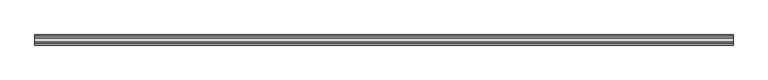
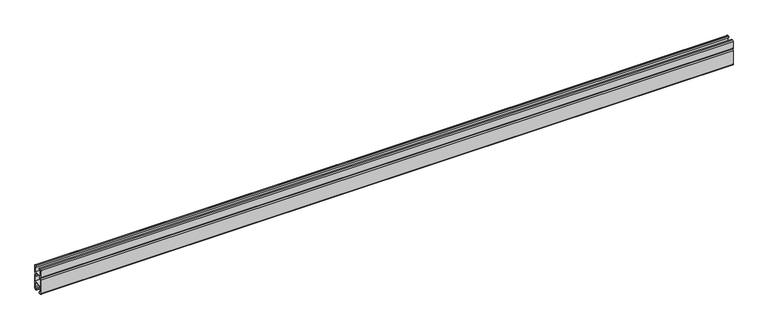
"""IFC4 building model written with IfcOpenShell, lengths in millimetres: proxy geometry, Kwiktrak Rail Straight- ARJO - Revit2017 - REV0 : 200.12870."""

from ifc_helpers import new_model, si_unit, point, frame, frame_2d, origin, place, context, project, spatial, polyline, circle_curve, trimmed, segment, composite_curve, outline, extrude, source, transform, mapped, element, save


def specialty_equipment_05a7d10e(model_context):
    return source(origin(), model_context, "Body", "SweptSolid", [
        extrude(outline(composite_curve([segment(polyline([(24.5, 35.0), (-24.5, 35.0), (-24.5, 7.5057742), (-21.0, 0.0), (-12.5, 0.0), (-12.5, -7.5), (-21.5, -7.5)]), True, "CONTINUOUS"), segment(trimmed(circle_curve(frame_2d((-21.5, -1.5)), 6.0), [point((-21.5, -7.5))], [point((-27.5, -1.5))], False, "CARTESIAN"), True, "CONTINUOUS"), segment(polyline([(-27.5, -1.5), (-27.5, 76.5)]), True, "CONTINUOUS"), segment(trimmed(circle_curve(frame_2d((-21.5, 76.5)), 6.0), [point((-27.5, 76.5))], [point((-21.5, 82.5))], False, "CARTESIAN"), True, "CONTINUOUS"), segment(polyline([(-21.5, 82.5), (-20.38, 82.5), (-20.38, 81.0), (-16.759196, 81.0), (-16.759196, 87.0), (-20.38, 87.0), (-20.38, 85.5), (-21.5, 85.5)]), True, "CONTINUOUS"), segment(trimmed(circle_curve(frame_2d((-21.5, 91.5)), 6.0), [point((-21.5, 85.5))], [point((-27.5, 91.5))], False, "CARTESIAN"), True, "CONTINUOUS"), segment(polyline([(-27.5, 91.5), (-27.5, 129.5)]), True, "CONTINUOUS"), segment(trimmed(circle_curve(frame_2d((-21.5, 129.5)), 6.0), [point((-27.5, 129.5))], [point((-21.5, 135.5))], False, "CARTESIAN"), True, "CONTINUOUS"), segment(polyline([(-21.5, 135.5), (-12.5, 135.5), (-12.5, 128.0), (-21.0, 128.0), (-24.5, 120.4942258), (-24.5, 93.0), (24.5, 93.0), (24.5, 120.4942258), (21.0, 128.0), (12.5, 128.0), (12.5, 135.5), (21.5, 135.5)]), True, "CONTINUOUS"), segment(trimmed(circle_curve(frame_2d((21.5, 129.5)), 6.0), [point((21.5, 135.5))], [point((27.5, 129.5))], False, "CARTESIAN"), True, "CONTINUOUS"), segment(polyline([(27.5, 129.5), (27.5, 91.5)]), True, "CONTINUOUS"), segment(trimmed(circle_curve(frame_2d((21.5, 91.5)), 6.0), [point((27.5, 91.5))], [point((21.5, 85.5))], False, "CARTESIAN"), True, "CONTINUOUS"), segment(polyline([(21.5, 85.5), (20.38, 85.5), (20.38, 87.0), (16.759196, 87.0), (16.759196, 81.0), (20.38, 81.0), (20.38, 82.5), (21.5, 82.5)]), True, "CONTINUOUS"), segment(trimmed(circle_curve(frame_2d((21.5, 76.5)), 6.0), [point((21.5, 82.5))], [point((27.5, 76.5))], False, "CARTESIAN"), True, "CONTINUOUS"), segment(polyline([(27.5, 76.5), (27.5, -1.5)]), True, "CONTINUOUS"), segment(trimmed(circle_curve(frame_2d((21.5, -1.5)), 6.0), [point((27.5, -1.5))], [point((21.5, -7.5))], False, "CARTESIAN"), True, "CONTINUOUS"), segment(polyline([(21.5, -7.5), (12.5, -7.5), (12.5, 0.0), (21.0, 0.0), (24.5, 7.5057742), (24.5, 35.0)]), True, "CONTINUOUS")], self_intersect=False), holes=[polyline([(-12.5, 75.0), (-21.0, 75.0), (-24.5, 67.4942258), (-24.5, 40.0), (24.5, 40.0), (24.5, 67.4942258), (21.0, 75.0), (12.5, 75.0), (12.5, 90.0), (-12.5, 90.0), (-12.5, 75.0)])]), frame((-1900.0, 0.0, 0.0), z_axis=(1.0, 0.0, 0.0), x_axis=(0.0, 1.0, 0.0)), (0.0, 0.0, 1.0), 3800.0),
    ])


if __name__ == "__main__":
    model = new_model("IFC4")
    model_context = context("Model", 3, world=origin())
    ifc_project = project(units=[si_unit("LENGTHUNIT", "METRE", prefix="MILLI")], contexts=[model_context])
    site = spatial("IfcSite", under=ifc_project)
    building = spatial("IfcBuilding", under=site)
    placement = place(None, origin())
    specialty_equipment_shape = specialty_equipment_05a7d10e(model_context)
    element("IfcBuildingElementProxy", 1, Name="Kwiktrak Rail Straight- ARJO - Revit2017 - REV0 : 200.12870", ObjectType="Kwiktrak Rail Straight- ARJO - Revit2017 - REV0 : 200.12870", at=placement, inside=building, context=model_context, shape_type="MappedRepresentation", body=[
        mapped(specialty_equipment_shape, transform((0.0, 0.0, 0.0), x_axis=(1.0, 0.0, 0.0), y_axis=(0.0, 1.0, 0.0), z_axis=(0.0, 0.0, 1.0))),
    ])
    save(model, "model.ifc")
